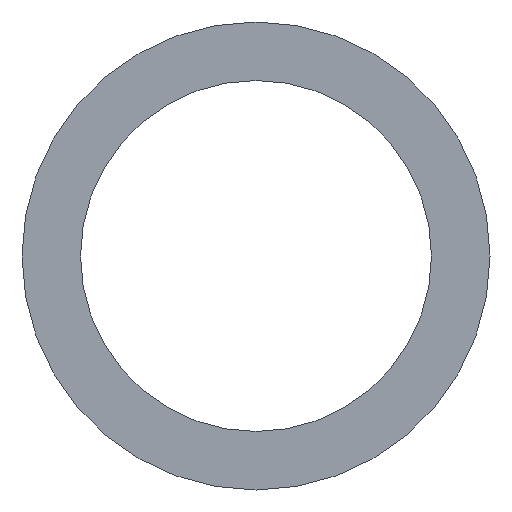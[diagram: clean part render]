
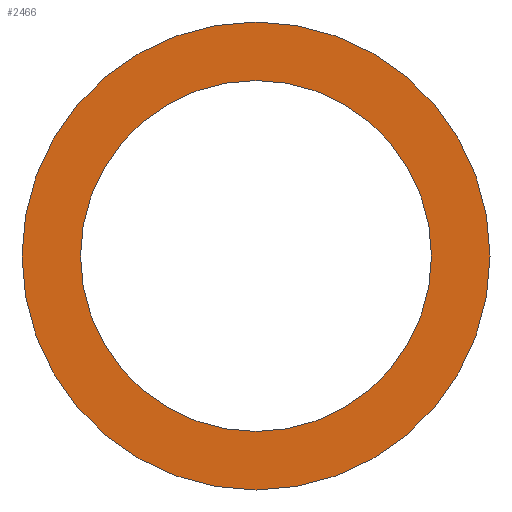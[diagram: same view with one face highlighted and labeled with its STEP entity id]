
A CAD part, front view. The second image highlights one B-rep face of the part: STEP entity #2466.
In plain terms, the highlighted planar face has unit normal (0, -1, 0).
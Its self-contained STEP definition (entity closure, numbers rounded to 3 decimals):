
#98 = CARTESIAN_POINT ( 'NONE',  ( 0., -27., 0. ) ) ;
#130 = DIRECTION ( 'NONE',  ( 0., 0., -1. ) ) ;
#203 = DIRECTION ( 'NONE',  ( 0., 0., 1. ) ) ;
#213 = VERTEX_POINT ( 'NONE', #300 ) ;
#259 = AXIS2_PLACEMENT_3D ( 'NONE', #2487, #3214, #3190 ) ;
#300 = CARTESIAN_POINT ( 'NONE',  ( 0., -27., -100. ) ) ;
#602 = DIRECTION ( 'NONE',  ( 0., 0., -1. ) ) ;
#1168 = CARTESIAN_POINT ( 'NONE',  ( 0., -27., 0. ) ) ;
#1200 = DIRECTION ( 'NONE',  ( 0., -1., 0. ) ) ;
#1301 = DIRECTION ( 'NONE',  ( 0., -1., 0. ) ) ;
#1386 = ORIENTED_EDGE ( 'NONE', *, *, #4537, .F. ) ;
#1666 = CIRCLE ( 'NONE', #2445, 75. ) ;
#1822 = CARTESIAN_POINT ( 'NONE',  ( 0., -27., 100. ) ) ;
#1913 = AXIS2_PLACEMENT_3D ( 'NONE', #2290, #1301, #602 ) ;
#1938 = PLANE ( 'NONE',  #4241 ) ;
#2171 = EDGE_CURVE ( 'NONE', #213, #2678, #3841, .T. ) ;
#2276 = DIRECTION ( 'NONE',  ( 0., 1., 0. ) ) ;
#2290 = CARTESIAN_POINT ( 'NONE',  ( 0., -27., 0. ) ) ;
#2320 = FACE_BOUND ( 'NONE', #4438, .T. ) ;
#2445 = AXIS2_PLACEMENT_3D ( 'NONE', #98, #1200, #4001 ) ;
#2466 = ADVANCED_FACE ( 'NONE', ( #2320, #3514 ), #1938, .F. ) ;
#2487 = CARTESIAN_POINT ( 'NONE',  ( 0., -27., 0. ) ) ;
#2579 = CARTESIAN_POINT ( 'NONE',  ( 0., -27., 75. ) ) ;
#2678 = VERTEX_POINT ( 'NONE', #1822 ) ;
#2923 = DIRECTION ( 'NONE',  ( 0., -1., 0. ) ) ;
#3004 = CARTESIAN_POINT ( 'NONE',  ( 0., -27., -75. ) ) ;
#3190 = DIRECTION ( 'NONE',  ( 0., 0., -1. ) ) ;
#3214 = DIRECTION ( 'NONE',  ( 0., -1., 0. ) ) ;
#3449 = ORIENTED_EDGE ( 'NONE', *, *, #3625, .T. ) ;
#3455 = AXIS2_PLACEMENT_3D ( 'NONE', #1168, #2923, #130 ) ;
#3514 = FACE_OUTER_BOUND ( 'NONE', #4392, .T. ) ;
#3533 = ORIENTED_EDGE ( 'NONE', *, *, #2171, .T. ) ;
#3625 = EDGE_CURVE ( 'NONE', #2678, #213, #4085, .T. ) ;
#3841 = CIRCLE ( 'NONE', #259, 100. ) ;
#4001 = DIRECTION ( 'NONE',  ( 0., 0., -1. ) ) ;
#4085 = CIRCLE ( 'NONE', #1913, 100. ) ;
#4103 = ORIENTED_EDGE ( 'NONE', *, *, #4484, .F. ) ;
#4104 = VERTEX_POINT ( 'NONE', #3004 ) ;
#4126 = CIRCLE ( 'NONE', #3455, 75. ) ;
#4241 = AXIS2_PLACEMENT_3D ( 'NONE', #4397, #2276, #203 ) ;
#4392 = EDGE_LOOP ( 'NONE', ( #3533, #3449 ) ) ;
#4397 = CARTESIAN_POINT ( 'NONE',  ( 0., -27., 75. ) ) ;
#4438 = EDGE_LOOP ( 'NONE', ( #1386, #4103 ) ) ;
#4484 = EDGE_CURVE ( 'NONE', #4528, #4104, #4126, .T. ) ;
#4528 = VERTEX_POINT ( 'NONE', #2579 ) ;
#4537 = EDGE_CURVE ( 'NONE', #4104, #4528, #1666, .T. ) ;
